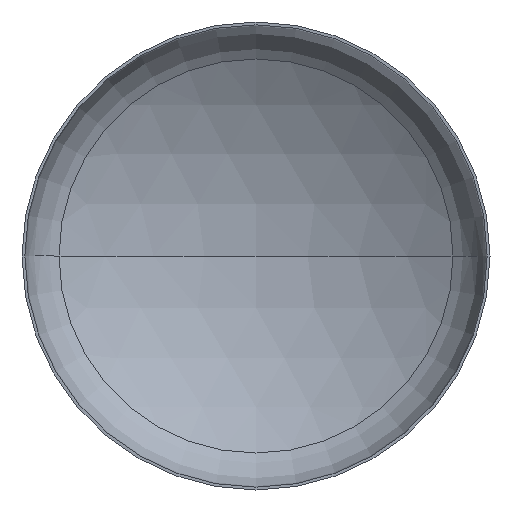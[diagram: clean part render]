
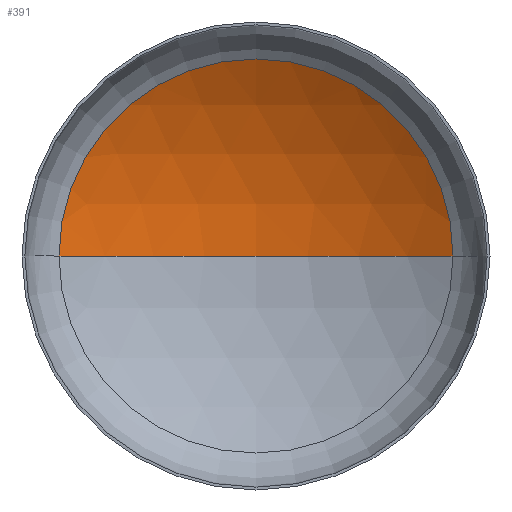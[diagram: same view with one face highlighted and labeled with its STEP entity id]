
A CAD part, front view. The second image highlights one B-rep face of the part: STEP entity #391.
In plain terms, the highlighted spherical face has radius 3040 mm.
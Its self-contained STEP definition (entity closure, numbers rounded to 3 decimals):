
#14 = EDGE_LOOP ( 'NONE', ( #239, #82, #77 ) ) ;
#27 = DIRECTION ( 'NONE',  ( 1., 0., 0. ) ) ;
#51 = AXIS2_PLACEMENT_3D ( 'NONE', #102, #209, #381 ) ;
#64 = VERTEX_POINT ( 'NONE', #281 ) ;
#66 = VERTEX_POINT ( 'NONE', #284 ) ;
#75 = VERTEX_POINT ( 'NONE', #218 ) ;
#77 = ORIENTED_EDGE ( 'NONE', *, *, #266, .T. ) ;
#82 = ORIENTED_EDGE ( 'NONE', *, *, #270, .T. ) ;
#102 = CARTESIAN_POINT ( 'NONE',  ( 0., -2017.525, 0. ) ) ;
#141 = AXIS2_PLACEMENT_3D ( 'NONE', #158, #157, #27 ) ;
#148 = AXIS2_PLACEMENT_3D ( 'NONE', #271, #232, #229 ) ;
#157 = DIRECTION ( 'NONE',  ( 0., 0., 1. ) ) ;
#158 = CARTESIAN_POINT ( 'NONE',  ( 0., -2017.525, 0. ) ) ;
#164 = AXIS2_PLACEMENT_3D ( 'NONE', #259, #252, #250 ) ;
#209 = DIRECTION ( 'NONE',  ( 0., 0., -1. ) ) ;
#218 = CARTESIAN_POINT ( 'NONE',  ( 1599.87, 567.435, 0. ) ) ;
#229 = DIRECTION ( 'NONE',  ( -1., 0., 0. ) ) ;
#232 = DIRECTION ( 'NONE',  ( 0., 0., -1. ) ) ;
#239 = ORIENTED_EDGE ( 'NONE', *, *, #273, .F. ) ;
#250 = DIRECTION ( 'NONE',  ( 1., 0., 0. ) ) ;
#252 = DIRECTION ( 'NONE',  ( 0., -1., 0. ) ) ;
#259 = CARTESIAN_POINT ( 'NONE',  ( 0., 567.435, 0. ) ) ;
#266 = EDGE_CURVE ( 'NONE', #75, #64, #325, .T. ) ;
#267 = CIRCLE ( 'NONE', #148, 3040. ) ;
#270 = EDGE_CURVE ( 'NONE', #66, #75, #267, .T. ) ;
#271 = CARTESIAN_POINT ( 'NONE',  ( 0., -2017.525, 0. ) ) ;
#273 = EDGE_CURVE ( 'NONE', #66, #64, #319, .T. ) ;
#281 = CARTESIAN_POINT ( 'NONE',  ( -1599.87, 567.435, 0. ) ) ;
#283 = SPHERICAL_SURFACE ( 'NONE', #51, 3040. ) ;
#284 = CARTESIAN_POINT ( 'NONE',  ( 0., 1022.475, 0. ) ) ;
#319 = CIRCLE ( 'NONE', #141, 3040. ) ;
#325 = CIRCLE ( 'NONE', #164, 1599.87 ) ;
#381 = DIRECTION ( 'NONE',  ( -1., 0., 0. ) ) ;
#391 = ADVANCED_FACE ( 'NONE', ( #393 ), #283, .F. ) ;
#393 = FACE_OUTER_BOUND ( 'NONE', #14, .T. ) ;
